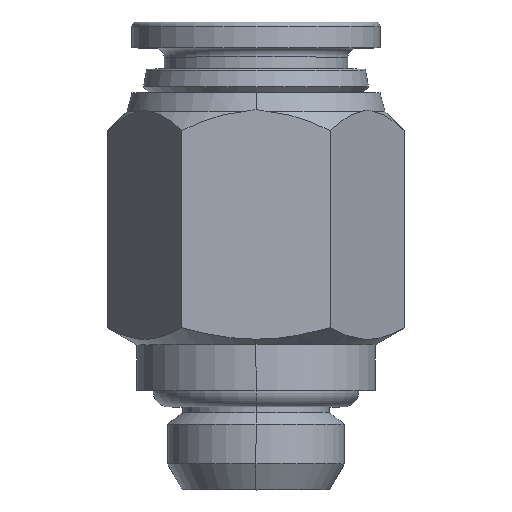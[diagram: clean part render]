
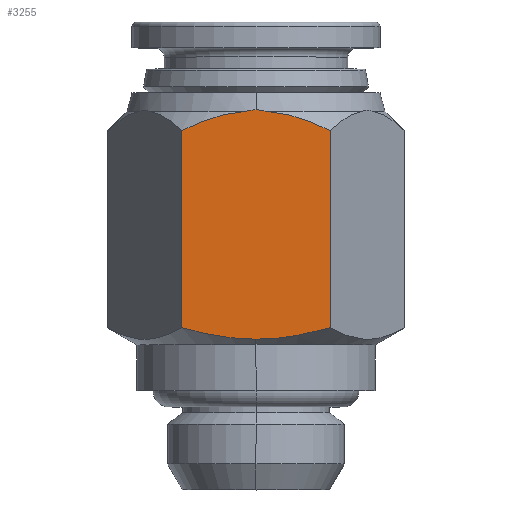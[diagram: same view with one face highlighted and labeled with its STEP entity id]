
A CAD part, top view. The second image highlights one B-rep face of the part: STEP entity #3255.
In plain terms, the highlighted planar face has unit normal (0, 0, 1).
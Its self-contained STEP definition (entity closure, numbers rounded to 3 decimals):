
#52 = ORIENTED_EDGE ( 'NONE', *, *, #5977, .F. ) ;
#198 = EDGE_CURVE ( 'NONE', #5535, #1928, #438, .T. ) ;
#292 = VECTOR ( 'NONE', #1962, 1000. ) ;
#418 = CARTESIAN_POINT ( 'NONE',  ( -0.502, 15.2, 7. ) ) ;
#438 = LINE ( 'NONE', #1294, #1624 ) ;
#439 = CARTESIAN_POINT ( 'NONE',  ( 0.811, 15.178, 7. ) ) ;
#516 = ORIENTED_EDGE ( 'NONE', *, *, #4083, .F. ) ;
#534 = CARTESIAN_POINT ( 'NONE',  ( 2.915, 14.656, 7. ) ) ;
#632 = CARTESIAN_POINT ( 'NONE',  ( 0.502, 15.2, 7. ) ) ;
#779 = B_SPLINE_CURVE_WITH_KNOTS ( 'NONE', 3,
 ( #5617, #4699, #862, #3665, #6141, #4142 ),
 .UNSPECIFIED., .F., .F.,
 ( 4, 2, 4 ),
 ( 0.019, 0.021, 0.023 ),
 .UNSPECIFIED. ) ;
#860 = CARTESIAN_POINT ( 'NONE',  ( -0.683, 2.789, 7. ) ) ;
#862 = CARTESIAN_POINT ( 'NONE',  ( 2.726, 3.068, 7. ) ) ;
#886 = ORIENTED_EDGE ( 'NONE', *, *, #198, .F. ) ;
#895 = LINE ( 'NONE', #948, #292 ) ;
#903 = B_SPLINE_CURVE_WITH_KNOTS ( 'NONE', 3,
 ( #3543, #1541, #5359, #632 ),
 .UNSPECIFIED., .F., .F.,
 ( 4, 4 ),
 ( 0.005, 0.005 ),
 .UNSPECIFIED. ) ;
#948 = CARTESIAN_POINT ( 'NONE',  ( 4.041, -3.8, 7. ) ) ;
#991 = VERTEX_POINT ( 'NONE', #5554 ) ;
#1036 = EDGE_CURVE ( 'NONE', #2295, #5535, #1667, .T. ) ;
#1294 = CARTESIAN_POINT ( 'NONE',  ( -4.041, -3.8, 7. ) ) ;
#1304 = DIRECTION ( 'NONE',  ( 1., 0., 0. ) ) ;
#1444 = CARTESIAN_POINT ( 'NONE',  ( 0.502, 15.2, 7. ) ) ;
#1476 = CARTESIAN_POINT ( 'NONE',  ( 1.122, 15.135, 7. ) ) ;
#1541 = CARTESIAN_POINT ( 'NONE',  ( 0.17, 15.267, 7. ) ) ;
#1617 = ORIENTED_EDGE ( 'NONE', *, *, #6014, .F. ) ;
#1624 = VECTOR ( 'NONE', #1802, 1000. ) ;
#1667 = B_SPLINE_CURVE_WITH_KNOTS ( 'NONE', 3,
 ( #5993, #860, #4288, #3608, #6023, #1743 ),
 .UNSPECIFIED., .F., .F.,
 ( 4, 2, 4 ),
 ( 0.023, 0.025, 0.027 ),
 .UNSPECIFIED. ) ;
#1738 = CARTESIAN_POINT ( 'NONE',  ( 4.041, 3.414, 7. ) ) ;
#1743 = CARTESIAN_POINT ( 'NONE',  ( -4.041, 3.414, 7. ) ) ;
#1802 = DIRECTION ( 'NONE',  ( 0., 1., 0. ) ) ;
#1818 = B_SPLINE_CURVE_WITH_KNOTS ( 'NONE', 3,
 ( #4145, #3673, #4760, #4795 ),
 .UNSPECIFIED., .F., .F.,
 ( 4, 4 ),
 ( 0.004, 0.005 ),
 .UNSPECIFIED. ) ;
#1819 = ORIENTED_EDGE ( 'NONE', *, *, #4214, .T. ) ;
#1868 = CARTESIAN_POINT ( 'NONE',  ( -2.915, 14.656, 7. ) ) ;
#1921 = ORIENTED_EDGE ( 'NONE', *, *, #1036, .F. ) ;
#1928 = VERTEX_POINT ( 'NONE', #5732 ) ;
#1962 = DIRECTION ( 'NONE',  ( 0., 1., 0. ) ) ;
#2112 = EDGE_LOOP ( 'NONE', ( #1819, #4744, #4773, #516, #1617, #886, #1921, #52 ) ) ;
#2154 = B_SPLINE_CURVE_WITH_KNOTS ( 'NONE', 3,
 ( #1444, #439, #1476, #3352, #5733, #534, #3384, #2439 ),
 .UNSPECIFIED., .F., .F.,
 ( 4, 2, 2, 4 ),
 ( 0.011, 0.012, 0.013, 0.015 ),
 .UNSPECIFIED. ) ;
#2209 = CARTESIAN_POINT ( 'NONE',  ( 0., 2.789, 7. ) ) ;
#2295 = VERTEX_POINT ( 'NONE', #2209 ) ;
#2427 = CARTESIAN_POINT ( 'NONE',  ( -0.502, 15.2, 7. ) ) ;
#2439 = CARTESIAN_POINT ( 'NONE',  ( 4.041, 14.135, 7. ) ) ;
#2630 = EDGE_CURVE ( 'NONE', #991, #4067, #2154, .T. ) ;
#2701 = FACE_OUTER_BOUND ( 'NONE', #2112, .T. ) ;
#2756 = CARTESIAN_POINT ( 'NONE',  ( -3.485, 14.413, 7. ) ) ;
#2824 = CARTESIAN_POINT ( 'NONE',  ( -1.73, 15.013, 7. ) ) ;
#3255 = ADVANCED_FACE ( 'NONE', ( #2701 ), #4523, .T. ) ;
#3268 = CARTESIAN_POINT ( 'NONE',  ( -0.81, 15.178, 7. ) ) ;
#3352 = CARTESIAN_POINT ( 'NONE',  ( 1.733, 15.013, 7. ) ) ;
#3384 = CARTESIAN_POINT ( 'NONE',  ( 3.484, 14.414, 7. ) ) ;
#3445 = AXIS2_PLACEMENT_3D ( 'NONE', #4583, #5045, #1304 ) ;
#3543 = CARTESIAN_POINT ( 'NONE',  ( 0., 15.267, 7. ) ) ;
#3583 = VERTEX_POINT ( 'NONE', #1738 ) ;
#3608 = CARTESIAN_POINT ( 'NONE',  ( -2.711, 3.065, 7. ) ) ;
#3665 = CARTESIAN_POINT ( 'NONE',  ( 1.377, 2.849, 7. ) ) ;
#3673 = CARTESIAN_POINT ( 'NONE',  ( -0.339, 15.243, 7. ) ) ;
#3728 = CARTESIAN_POINT ( 'NONE',  ( -1.118, 15.136, 7. ) ) ;
#3936 = CARTESIAN_POINT ( 'NONE',  ( -4.041, 3.414, 7. ) ) ;
#4067 = VERTEX_POINT ( 'NONE', #5073 ) ;
#4083 = EDGE_CURVE ( 'NONE', #5538, #5217, #1818, .T. ) ;
#4142 = CARTESIAN_POINT ( 'NONE',  ( 0., 2.789, 7. ) ) ;
#4145 = CARTESIAN_POINT ( 'NONE',  ( -0.502, 15.2, 7. ) ) ;
#4204 = CARTESIAN_POINT ( 'NONE',  ( -4.041, 14.135, 7. ) ) ;
#4214 = EDGE_CURVE ( 'NONE', #3583, #4067, #895, .T. ) ;
#4288 = CARTESIAN_POINT ( 'NONE',  ( -1.362, 2.847, 7. ) ) ;
#4523 = PLANE ( 'NONE',  #3445 ) ;
#4583 = CARTESIAN_POINT ( 'NONE',  ( -4.041, -3.8, 7. ) ) ;
#4653 = B_SPLINE_CURVE_WITH_KNOTS ( 'NONE', 3,
 ( #4204, #2756, #1868, #4679, #2824, #3728, #3268, #418 ),
 .UNSPECIFIED., .F., .F.,
 ( 4, 2, 2, 4 ),
 ( 0.006, 0.008, 0.009, 0.01 ),
 .UNSPECIFIED. ) ;
#4679 = CARTESIAN_POINT ( 'NONE',  ( -2.03, 14.935, 7. ) ) ;
#4699 = CARTESIAN_POINT ( 'NONE',  ( 3.388, 3.225, 7. ) ) ;
#4744 = ORIENTED_EDGE ( 'NONE', *, *, #2630, .F. ) ;
#4760 = CARTESIAN_POINT ( 'NONE',  ( -0.17, 15.267, 7. ) ) ;
#4773 = ORIENTED_EDGE ( 'NONE', *, *, #5157, .F. ) ;
#4795 = CARTESIAN_POINT ( 'NONE',  ( 0., 15.267, 7. ) ) ;
#4940 = CARTESIAN_POINT ( 'NONE',  ( 0., 15.267, 7. ) ) ;
#5045 = DIRECTION ( 'NONE',  ( 0., 0., 1. ) ) ;
#5073 = CARTESIAN_POINT ( 'NONE',  ( 4.041, 14.135, 7. ) ) ;
#5157 = EDGE_CURVE ( 'NONE', #5217, #991, #903, .T. ) ;
#5217 = VERTEX_POINT ( 'NONE', #4940 ) ;
#5359 = CARTESIAN_POINT ( 'NONE',  ( 0.338, 15.244, 7. ) ) ;
#5535 = VERTEX_POINT ( 'NONE', #3936 ) ;
#5538 = VERTEX_POINT ( 'NONE', #2427 ) ;
#5554 = CARTESIAN_POINT ( 'NONE',  ( 0.502, 15.2, 7. ) ) ;
#5617 = CARTESIAN_POINT ( 'NONE',  ( 4.041, 3.414, 7. ) ) ;
#5732 = CARTESIAN_POINT ( 'NONE',  ( -4.041, 14.135, 7. ) ) ;
#5733 = CARTESIAN_POINT ( 'NONE',  ( 2.032, 14.934, 7. ) ) ;
#5977 = EDGE_CURVE ( 'NONE', #3583, #2295, #779, .T. ) ;
#5993 = CARTESIAN_POINT ( 'NONE',  ( 0., 2.789, 7. ) ) ;
#6014 = EDGE_CURVE ( 'NONE', #1928, #5538, #4653, .T. ) ;
#6023 = CARTESIAN_POINT ( 'NONE',  ( -3.384, 3.224, 7. ) ) ;
#6141 = CARTESIAN_POINT ( 'NONE',  ( 0.684, 2.789, 7. ) ) ;
